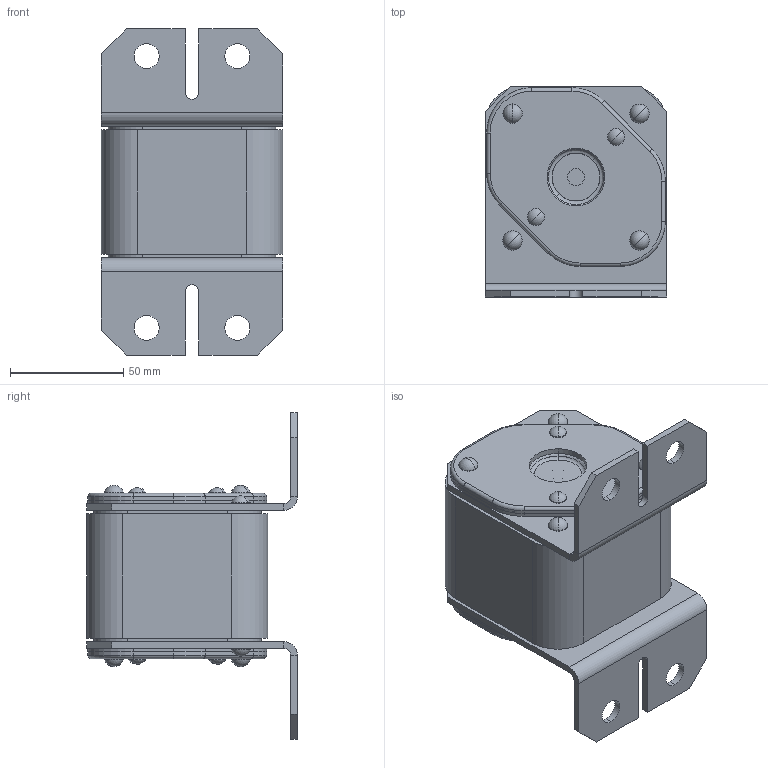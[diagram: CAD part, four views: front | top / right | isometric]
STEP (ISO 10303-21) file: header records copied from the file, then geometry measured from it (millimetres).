
FILE_DESCRIPTION (( 'STEP AP214' ), '1' );
FILE_NAME ('ﾏﾏ60ﾑ-41ﾒ0-XXXX-XXXX-ﾊﾝﾀﾇ.STEP', '2023-05-02T08:07:55', ( '' ), ( '' ), 'SwSTEP 2.0', 'SolidWorks 2018', '' );
FILE_SCHEMA (( 'AUTOMOTIVE_DESIGN' ));
Length unit declared in the file: millimetre
Products named in the file (1): ﾏﾏ60ﾑ-41ﾒ0-XXXX-XXXX-ﾊﾝﾀﾇ
Bounding box: 80 x 93 x 144 mm (x, y, z)
Volume: 444419.2 mm3; surface area: 146709.1 mm2
Topology: 23 solids, 23 shells, 522 faces, 1252 edges, 804 vertices
Faces by surface type: cylinder 252, plane 174, torus 60, sphere 24, cone 12
Entity records: 21594 total; most frequent: DIRECTION 2978, CARTESIAN_POINT 2579, ORIENTED_EDGE 2504, EDGE_CURVE 1252, AXIS2_PLACEMENT_3D 1203, VERTEX_POINT 804, CIRCLE 680, EDGE_LOOP 670
